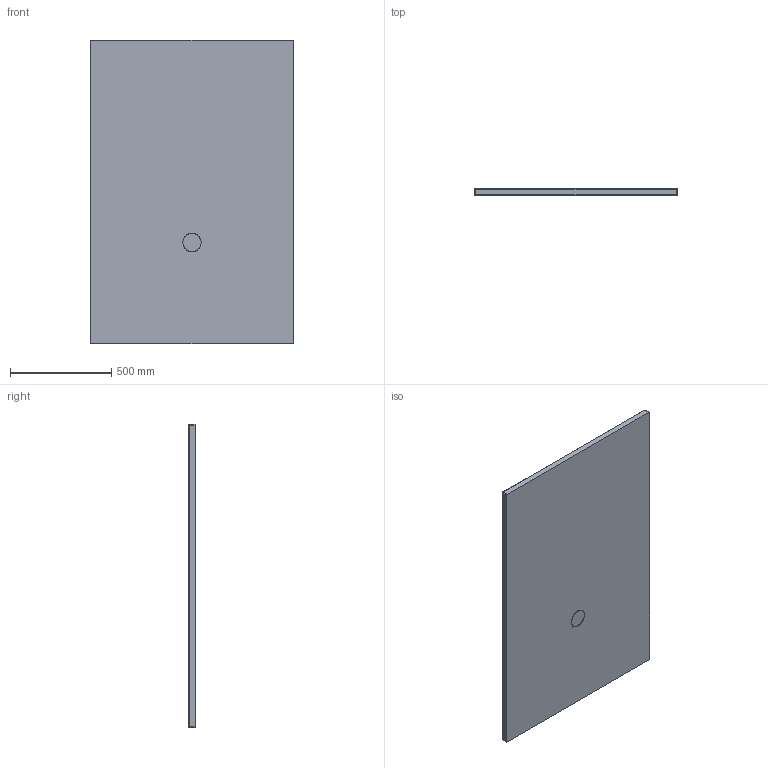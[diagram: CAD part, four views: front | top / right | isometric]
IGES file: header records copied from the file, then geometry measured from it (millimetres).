
Start section: SolidWorks IGES file using analytic representation for surfaces
Global section: file name: D:\Users\M.Szymanski\Desktop\Brodziki\Nias\B_M_NIAS_150x100x1,5.IGS; native system: SolidWorks 2011; preprocessor: SolidWorks 2011; author: M.Szymanski; date: 180222.142428; units: millimetre
Bounding box: 1000 x 30 x 1500 mm (x, y, z)
Surface area: 3167504.3 mm2 (no closed solid volume)
Topology: 0 solids, 0 shells, 45 faces, 662 edges, 661 vertices
Faces by surface type: bspline 25, revolution 20
